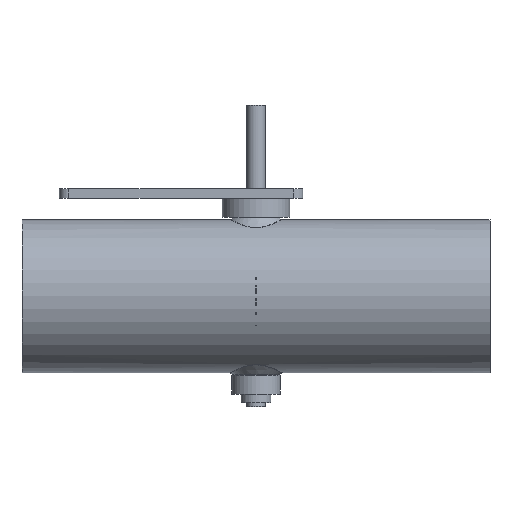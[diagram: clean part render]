
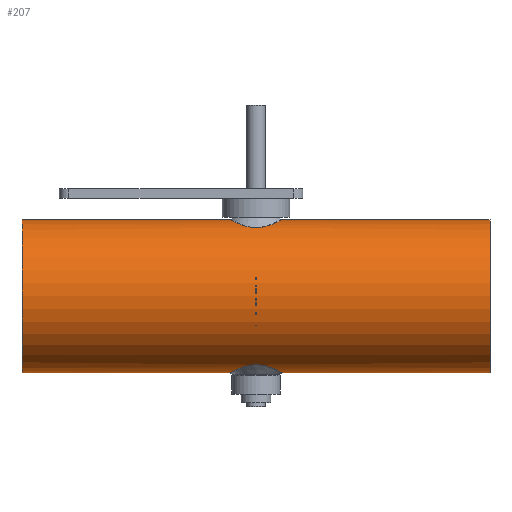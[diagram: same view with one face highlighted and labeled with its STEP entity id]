
A CAD part, top view. The second image highlights one B-rep face of the part: STEP entity #207.
In plain terms, the highlighted cylindrical face has radius 40.8 mm (diameter 81.6 mm), a full revolution.
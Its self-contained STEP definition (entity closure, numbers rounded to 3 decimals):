
#107=B_SPLINE_CURVE_WITH_KNOTS('',3,(#1457,#1458,#1459,#1460,#1461,#1462,
#1463,#1464,#1465,#1466,#1467,#1468,#1469,#1470,#1471,#1472,#1473,#1474,
#1475,#1476,#1477,#1478,#1479,#1480,#1481,#1482,#1483,#1484),.UNSPECIFIED.,
 .T.,.F.,(2,2,2,2,2,2,2,2,2,2,2,2,2,2,2,2),(-0.063,0.,0.125,
0.25,0.313,0.375,0.438,
0.5,0.563,0.625,0.75,0.813,0.875,
0.938,1.,1.125),.UNSPECIFIED.);
#108=B_SPLINE_CURVE_WITH_KNOTS('',3,(#1486,#1487,#1488,#1489,#1490,#1491,
#1492,#1493,#1494,#1495,#1496,#1497,#1498,#1499,#1500,#1501,#1502,#1503,
#1504,#1505,#1506,#1507,#1508,#1509,#1510,#1511,#1512,#1513,#1514,#1515),
 .UNSPECIFIED.,.T.,.F.,(2,2,2,2,2,2,2,2,2,2,2,2,2,2,2,2,2),(-0.063,
0.,0.062,0.125,0.188,0.25,0.375,0.438,0.5,0.563,
0.625,0.688,0.75,0.875,0.938,1.,1.063),.UNSPECIFIED.);
#148=CYLINDRICAL_SURFACE('',#1008,40.8);
#207=ADVANCED_FACE('',(#359,#360,#361,#362),#148,.T.);
#359=FACE_BOUND('',#479,.T.);
#360=FACE_BOUND('',#480,.T.);
#361=FACE_BOUND('',#481,.T.);
#362=FACE_BOUND('',#482,.T.);
#479=EDGE_LOOP('',(#655));
#480=EDGE_LOOP('',(#656));
#481=EDGE_LOOP('',(#657));
#482=EDGE_LOOP('',(#658));
#655=ORIENTED_EDGE('',*,*,#849,.T.);
#656=ORIENTED_EDGE('',*,*,#850,.T.);
#657=ORIENTED_EDGE('',*,*,#845,.T.);
#658=ORIENTED_EDGE('',*,*,#847,.T.);
#757=VERTEX_POINT('',#1448);
#759=VERTEX_POINT('',#1453);
#761=VERTEX_POINT('',#1485);
#762=VERTEX_POINT('',#1516);
#845=EDGE_CURVE('',#757,#757,#909,.T.);
#847=EDGE_CURVE('',#759,#759,#911,.T.);
#849=EDGE_CURVE('',#761,#761,#107,.T.);
#850=EDGE_CURVE('',#762,#762,#108,.T.);
#909=CIRCLE('',#1002,40.8);
#911=CIRCLE('',#1005,40.8);
#1002=AXIS2_PLACEMENT_3D('',#1447,#1214,#1215);
#1005=AXIS2_PLACEMENT_3D('',#1452,#1220,#1221);
#1008=AXIS2_PLACEMENT_3D('',#1517,#1226,#1227);
#1214=DIRECTION('',(-1.,0.,0.));
#1215=DIRECTION('',(0.,0.,1.));
#1220=DIRECTION('',(1.,0.,0.));
#1221=DIRECTION('',(0.,0.,-1.));
#1226=DIRECTION('',(1.,0.,0.));
#1227=DIRECTION('',(0.,0.,-1.));
#1447=CARTESIAN_POINT('',(125.,1.7,125.));
#1448=CARTESIAN_POINT('',(125.,1.7,165.8));
#1452=CARTESIAN_POINT('',(-125.,1.7,125.));
#1453=CARTESIAN_POINT('',(-125.,1.7,84.2));
#1457=CARTESIAN_POINT('',(-5.395,-35.522,108.233));
#1458=CARTESIAN_POINT('',(-10.314,-37.121,112.136));
#1459=CARTESIAN_POINT('',(-12.526,-38.286,115.893));
#1460=CARTESIAN_POINT('',(-14.573,-39.3,124.113));
#1461=CARTESIAN_POINT('',(-14.278,-39.137,128.606));
#1462=CARTESIAN_POINT('',(-11.972,-38.029,134.501));
#1463=CARTESIAN_POINT('',(-10.92,-37.535,136.319));
#1464=CARTESIAN_POINT('',(-8.287,-36.464,139.527));
#1465=CARTESIAN_POINT('',(-6.711,-35.88,140.922));
#1466=CARTESIAN_POINT('',(-2.997,-34.995,142.868));
#1467=CARTESIAN_POINT('',(-0.776,-34.74,143.354));
#1468=CARTESIAN_POINT('',(3.453,-35.035,142.757));
#1469=CARTESIAN_POINT('',(5.401,-35.524,141.764));
#1470=CARTESIAN_POINT('',(8.676,-36.588,139.164));
#1471=CARTESIAN_POINT('',(10.013,-37.153,137.588));
#1472=CARTESIAN_POINT('',(12.212,-38.133,134.022));
#1473=CARTESIAN_POINT('',(13.03,-38.535,132.078));
#1474=CARTESIAN_POINT('',(14.58,-39.303,125.868));
#1475=CARTESIAN_POINT('',(14.29,-39.142,121.43));
#1476=CARTESIAN_POINT('',(11.972,-38.029,115.496));
#1477=CARTESIAN_POINT('',(10.935,-37.541,113.701));
#1478=CARTESIAN_POINT('',(8.286,-36.463,110.47));
#1479=CARTESIAN_POINT('',(6.716,-35.882,109.082));
#1480=CARTESIAN_POINT('',(2.997,-34.995,107.132));
#1481=CARTESIAN_POINT('',(0.781,-34.74,106.646));
#1482=CARTESIAN_POINT('',(-3.455,-35.035,107.243));
#1483=CARTESIAN_POINT('',(-5.395,-35.522,108.233));
#1484=CARTESIAN_POINT('',(-10.314,-37.121,112.136));
#1485=CARTESIAN_POINT('',(-7.035,-36.055,109.534));
#1486=CARTESIAN_POINT('',(-8.677,39.989,110.837));
#1487=CARTESIAN_POINT('',(-5.393,38.921,108.231));
#1488=CARTESIAN_POINT('',(-3.45,38.434,107.241));
#1489=CARTESIAN_POINT('',(0.792,38.14,106.646));
#1490=CARTESIAN_POINT('',(3.004,38.396,107.134));
#1491=CARTESIAN_POINT('',(6.717,39.282,109.083));
#1492=CARTESIAN_POINT('',(8.288,39.864,110.473));
#1493=CARTESIAN_POINT('',(10.931,40.94,113.696));
#1494=CARTESIAN_POINT('',(11.98,41.432,115.513));
#1495=CARTESIAN_POINT('',(14.288,42.542,121.434));
#1496=CARTESIAN_POINT('',(14.582,42.704,125.865));
#1497=CARTESIAN_POINT('',(13.027,41.934,132.088));
#1498=CARTESIAN_POINT('',(12.211,41.533,134.023));
#1499=CARTESIAN_POINT('',(10.01,40.552,137.592));
#1500=CARTESIAN_POINT('',(8.677,39.989,139.161));
#1501=CARTESIAN_POINT('',(5.414,38.928,141.755));
#1502=CARTESIAN_POINT('',(3.469,38.437,142.752));
#1503=CARTESIAN_POINT('',(-0.771,38.14,143.355));
#1504=CARTESIAN_POINT('',(-2.988,38.393,142.871));
#1505=CARTESIAN_POINT('',(-6.705,39.278,140.927));
#1506=CARTESIAN_POINT('',(-8.278,39.86,139.536));
#1507=CARTESIAN_POINT('',(-10.923,40.936,136.316));
#1508=CARTESIAN_POINT('',(-11.974,41.429,134.5));
#1509=CARTESIAN_POINT('',(-14.288,42.542,128.573));
#1510=CARTESIAN_POINT('',(-14.582,42.704,124.14));
#1511=CARTESIAN_POINT('',(-13.03,41.935,117.919));
#1512=CARTESIAN_POINT('',(-12.213,41.533,115.98));
#1513=CARTESIAN_POINT('',(-10.013,40.553,112.411));
#1514=CARTESIAN_POINT('',(-8.677,39.989,110.837));
#1515=CARTESIAN_POINT('',(-5.393,38.921,108.231));
#1516=CARTESIAN_POINT('',(-7.035,39.455,109.534));
#1517=CARTESIAN_POINT('',(-125.,1.7,125.));
